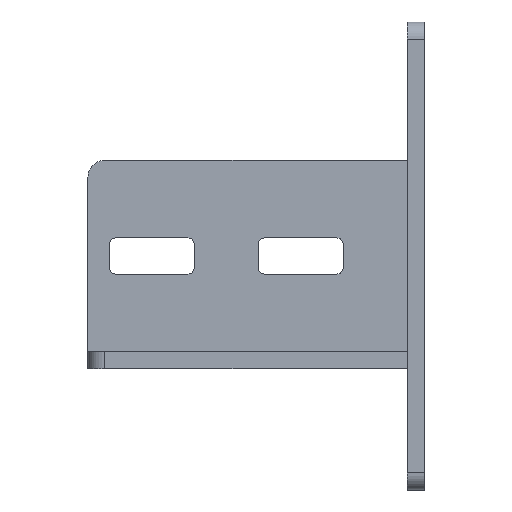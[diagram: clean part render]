
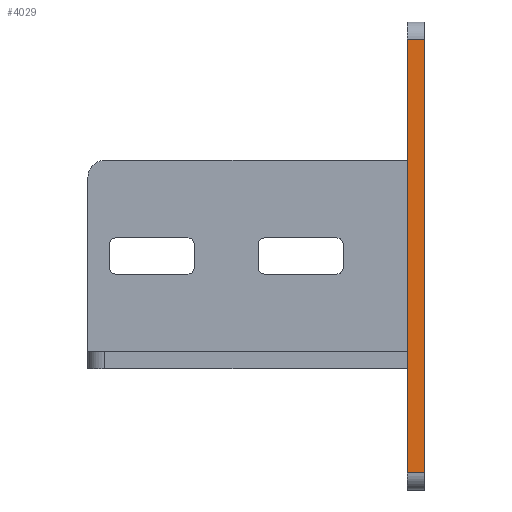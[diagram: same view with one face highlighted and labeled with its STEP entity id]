
A CAD part, left-side view. The second image highlights one B-rep face of the part: STEP entity #4029.
In plain terms, the highlighted planar face has unit normal (-1, 0, 0).
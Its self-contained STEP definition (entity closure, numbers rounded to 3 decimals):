
#69 = VERTEX_POINT ( 'NONE', #1458 ) ;
#345 = LINE ( 'NONE', #2936, #2000 ) ;
#586 = DIRECTION ( 'NONE',  ( 0., 0., 1. ) ) ;
#834 = CARTESIAN_POINT ( 'NONE',  ( -32.122, 4., -37.391 ) ) ;
#978 = EDGE_CURVE ( 'NONE', #1946, #69, #4294, .T. ) ;
#1080 = EDGE_CURVE ( 'NONE', #1568, #3299, #3784, .T. ) ;
#1125 = CARTESIAN_POINT ( 'NONE',  ( -32.122, 4., 64.609 ) ) ;
#1180 = DIRECTION ( 'NONE',  ( 0., 0., -1. ) ) ;
#1439 = EDGE_CURVE ( 'NONE', #3299, #69, #345, .T. ) ;
#1458 = CARTESIAN_POINT ( 'NONE',  ( -32.122, 0., 64.609 ) ) ;
#1568 = VERTEX_POINT ( 'NONE', #3954 ) ;
#1574 = ORIENTED_EDGE ( 'NONE', *, *, #1439, .F. ) ;
#1654 = CARTESIAN_POINT ( 'NONE',  ( -32.122, 4., -37.391 ) ) ;
#1787 = VECTOR ( 'NONE', #4196, 1000. ) ;
#1884 = CARTESIAN_POINT ( 'NONE',  ( -32.122, 4., -37.391 ) ) ;
#1917 = CARTESIAN_POINT ( 'NONE',  ( -32.122, 0., -37.391 ) ) ;
#1946 = VERTEX_POINT ( 'NONE', #4193 ) ;
#2000 = VECTOR ( 'NONE', #3282, 1000. ) ;
#2212 = EDGE_LOOP ( 'NONE', ( #3986, #1574, #4158, #2356 ) ) ;
#2356 = ORIENTED_EDGE ( 'NONE', *, *, #2441, .T. ) ;
#2441 = EDGE_CURVE ( 'NONE', #1568, #1946, #3369, .T. ) ;
#2485 = PLANE ( 'NONE',  #3959 ) ;
#2936 = CARTESIAN_POINT ( 'NONE',  ( -32.122, 4., 64.609 ) ) ;
#3007 = VECTOR ( 'NONE', #3646, 1000. ) ;
#3175 = DIRECTION ( 'NONE',  ( 1., 0., 0. ) ) ;
#3282 = DIRECTION ( 'NONE',  ( 0., -1., 0. ) ) ;
#3299 = VERTEX_POINT ( 'NONE', #1125 ) ;
#3369 = LINE ( 'NONE', #1884, #1787 ) ;
#3646 = DIRECTION ( 'NONE',  ( 0., 0., 1. ) ) ;
#3784 = LINE ( 'NONE', #1654, #3007 ) ;
#3954 = CARTESIAN_POINT ( 'NONE',  ( -32.122, 4., -37.391 ) ) ;
#3959 = AXIS2_PLACEMENT_3D ( 'NONE', #834, #3175, #1180 ) ;
#3986 = ORIENTED_EDGE ( 'NONE', *, *, #978, .T. ) ;
#4029 = ADVANCED_FACE ( 'NONE', ( #4098 ), #2485, .F. ) ;
#4098 = FACE_OUTER_BOUND ( 'NONE', #2212, .T. ) ;
#4158 = ORIENTED_EDGE ( 'NONE', *, *, #1080, .F. ) ;
#4186 = VECTOR ( 'NONE', #586, 1000. ) ;
#4193 = CARTESIAN_POINT ( 'NONE',  ( -32.122, 0., -37.391 ) ) ;
#4196 = DIRECTION ( 'NONE',  ( 0., -1., 0. ) ) ;
#4294 = LINE ( 'NONE', #1917, #4186 ) ;
